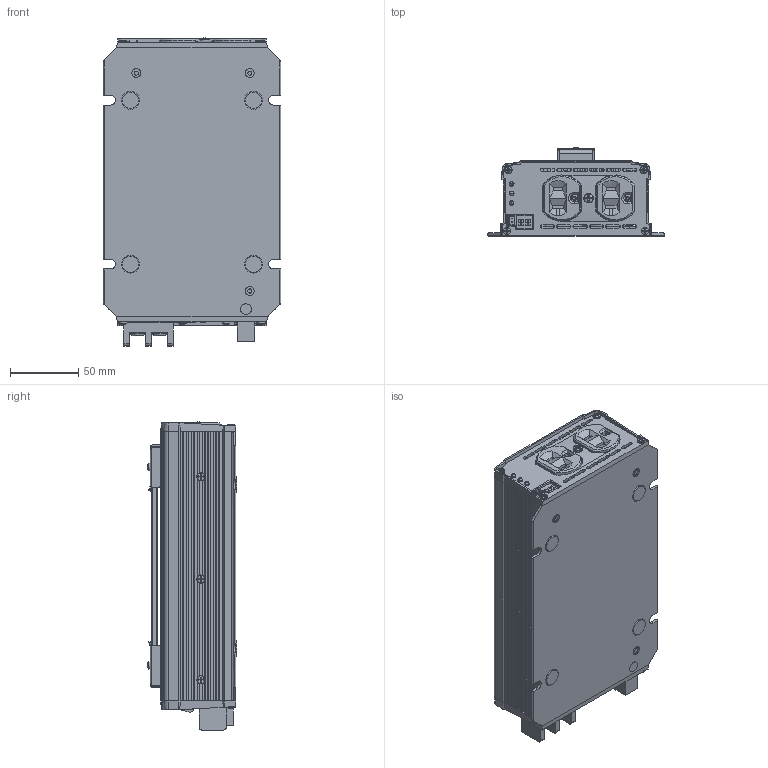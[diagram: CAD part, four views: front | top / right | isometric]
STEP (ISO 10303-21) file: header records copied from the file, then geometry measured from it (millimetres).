
FILE_DESCRIPTION(('Creo Elements/Direct Modeling STEP Export'),'2;1');
FILE_NAME('NTS-450US.stp','2021-04-16T19:52:33',(''),(''),'PTC Creo Elements/Direct Modeling STEP processor for AP214 (Solid Model)','PTC Creo Elements/Direct Modeling 19.0A 04-Oct-2014 (C) Parametric Technology GmbH','');
FILE_SCHEMA(('AUTOMOTIVE_DESIGN { 1 0 10303 214 1 1 1 1 }'));
Length unit declared in the file: millimetre
Products named in the file (141): CASE1下盖22; M3-5.5-3; 77; M3-5.5-1; M3-5.5-2; 下盖; FOOT_PAD_7_1.PRT.29; FOOT_PAD_7_1.PRT; FOOT_PAD_7_1.PRT.31; FOOT_PAD_7_1.PRT.30; PAD; 上盖; 19-30281-0250__w__.1; 19-30281-0250__w__.2.1; 19-30281-0250__w__.2.1.1; 19-30281-0250__w__.2; 19-30281-0250__w__.2.1.1.1; 19-30281-0250__w__; 19-30286-1312__w__.1.1.1.1; 19-30286-1312__w__.1.1.1; 19-30286-1312__w__.1; 19-30286-1312__w__.1.1; 面板螺丝; 面板螺丝2; 19-30286-1312__w__.1.2; 19-30286-1312__w__.1.2.1; 螺丝; 1HH2NTS-450; p1; 1.4; 1.5; 1.3; 1.2; 1.1; 1.6; 2.2; 2.1; 2.5; 2.4; 2.3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
Assembly tree (146 placements, depth 5):
  NTS-450
    美规螺丝
    E-07-A2美规
      E-07-A2_1.ASM
        E09-008-27547.ASM  x4
          E09-008_008A.PRT
          E09-008-12243.PRT
        E09-003.PRT
        E09-002C-27468.ASM
          1.PRT  x2
          E09-011.PRT  x2
          E09-002C-12095.PRT
          E06-008B.PRT
        E09A.PRT
        E09-001C.PRT  x2
        E09C.PRT
    1xx3NTS-450US-O
      450US
    1XX3NTS-450-I
    风扇螺丝
      19-30286-1312__w__.1.2.1.1.1
      19-30286-1312__w__.1.2.1.1
      19-30286-1312__w__.1.2.1
      19-30286-1312__w__.1.2
    把手
      174
      guwei1
      guwei1.1
    FAN
      26D77668-81B1-466B-87E3--601440.PRT
    输入端装配2
      ON.PRT.1
      FG.1
      TN_1
    装配2
      TF
      c2.1
      c2
      CX2
      CX1
      CX1.1
      CX2.1
      CX1.1.1
      C
    HS
      1GG1HS-SZ137.1
      1GG1HS-SZ137
      1GG4CU-SZ028
      1GG4CU-SZ030
      1GG4CU-SZ029
      1GG1HS-SZ137old
      1GG1HS-SZ138
      1GG1HS-SZ129
        PIN2-2.1
        PIN2-2
        SZ1
      1GG1HS-SZ130
        PIN2-2.1
        PIN2-2
        SZ1
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Bounding box: 130 x 65.32 x 225.55 mm (x, y, z)
Volume: 476280 mm3; surface area: 435162.2 mm2
Topology: 122 solids, 122 shells, 6819 faces, 18103 edges, 11649 vertices
Faces by surface type: plane 4944, cylinder 1229, cone 264, bspline 190, sphere 100, torus 86, extrusion 6
Entity records: 257812 total; most frequent: CARTESIAN_POINT 72033, ORIENTED_EDGE 37018, DIRECTION 32824, EDGE_CURVE 18507, VECTOR 13832, LINE 13826, VERTEX_POINT 11940, AXIS2_PLACEMENT_3D 9496
